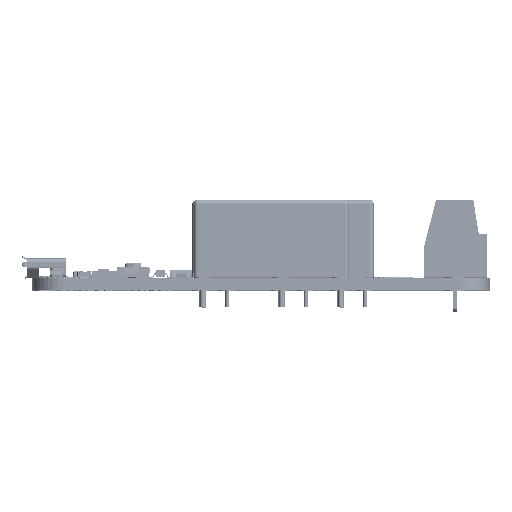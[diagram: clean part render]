
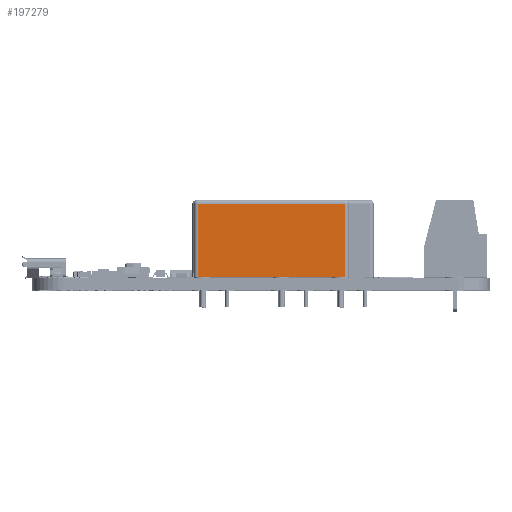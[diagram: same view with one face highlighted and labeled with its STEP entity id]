
A CAD part, top view. The second image highlights one B-rep face of the part: STEP entity #197279.
In plain terms, the highlighted planar face has unit normal (0, 0, 1).
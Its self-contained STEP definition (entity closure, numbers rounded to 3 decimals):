
#161686 = CARTESIAN_POINT ( 'NONE',  ( -9.5, 0., 5. ) ) ;
#161689 = DIRECTION ( 'NONE',  ( 1., 0., 0. ) ) ;
#161691 = VECTOR ( 'NONE', #161689, 1000. ) ;
#161693 = CARTESIAN_POINT ( 'NONE',  ( -10., 0., 5. ) ) ;
#161695 = LINE ( 'NONE', #161693, #161691 ) ;
#161700 = CARTESIAN_POINT ( 'NONE',  ( 9.5, 0., 5. ) ) ;
#161808 = DIRECTION ( 'NONE',  ( 0., 1., 0. ) ) ;
#161810 = VECTOR ( 'NONE', #161808, 1000. ) ;
#161813 = CARTESIAN_POINT ( 'NONE',  ( 9.5, 10., 5. ) ) ;
#161814 = LINE ( 'NONE', #161813, #161810 ) ;
#161903 = DIRECTION ( 'NONE',  ( -1., 0., 0. ) ) ;
#161905 = DIRECTION ( 'NONE',  ( 0., 0., -1. ) ) ;
#161906 = CARTESIAN_POINT ( 'NONE',  ( -10., 10., 5. ) ) ;
#161907 = AXIS2_PLACEMENT_3D ( 'NONE', #161906, #161905, #161903 ) ;
#161914 = PLANE ( 'NONE',  #161907 ) ;
#161948 = FACE_OUTER_BOUND ( 'NONE', #197284, .T. ) ;
#162010 = DIRECTION ( 'NONE',  ( 0., -1., 0. ) ) ;
#162011 = VECTOR ( 'NONE', #162010, 1000. ) ;
#162012 = CARTESIAN_POINT ( 'NONE',  ( -9.5, 10., 5. ) ) ;
#162013 = LINE ( 'NONE', #162012, #162011 ) ;
#162015 = CARTESIAN_POINT ( 'NONE',  ( -9.5, 9.5, 5. ) ) ;
#162017 = CARTESIAN_POINT ( 'NONE',  ( 9.5, 9.5, 5. ) ) ;
#162018 = DIRECTION ( 'NONE',  ( -1., 0., 0. ) ) ;
#162019 = VECTOR ( 'NONE', #162018, 1000. ) ;
#162021 = CARTESIAN_POINT ( 'NONE',  ( -10., 9.5, 5. ) ) ;
#162022 = LINE ( 'NONE', #162021, #162019 ) ;
#197217 = VERTEX_POINT ( 'NONE', #161700 ) ;
#197221 = EDGE_CURVE ( 'NONE', #197223, #197217, #161695, .T. ) ;
#197223 = VERTEX_POINT ( 'NONE', #161686 ) ;
#197252 = ORIENTED_EDGE ( 'NONE', *, *, #197254, .T. ) ;
#197254 = EDGE_CURVE ( 'NONE', #197217, #197290, #161814, .T. ) ;
#197279 = ADVANCED_FACE ( 'NONE', ( #161948 ), #161914, .F. ) ;
#197284 = EDGE_LOOP ( 'NONE', ( #197286, #197294, #197298, #197252 ) ) ;
#197286 = ORIENTED_EDGE ( 'NONE', *, *, #197288, .T. ) ;
#197288 = EDGE_CURVE ( 'NONE', #197290, #197293, #162022, .T. ) ;
#197290 = VERTEX_POINT ( 'NONE', #162017 ) ;
#197293 = VERTEX_POINT ( 'NONE', #162015 ) ;
#197294 = ORIENTED_EDGE ( 'NONE', *, *, #197296, .T. ) ;
#197296 = EDGE_CURVE ( 'NONE', #197293, #197223, #162013, .T. ) ;
#197298 = ORIENTED_EDGE ( 'NONE', *, *, #197221, .T. ) ;
